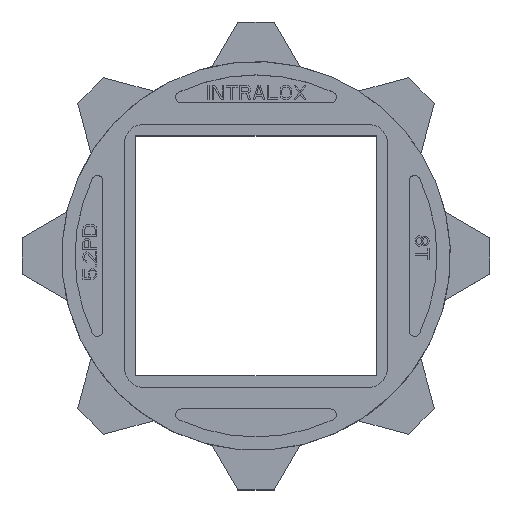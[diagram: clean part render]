
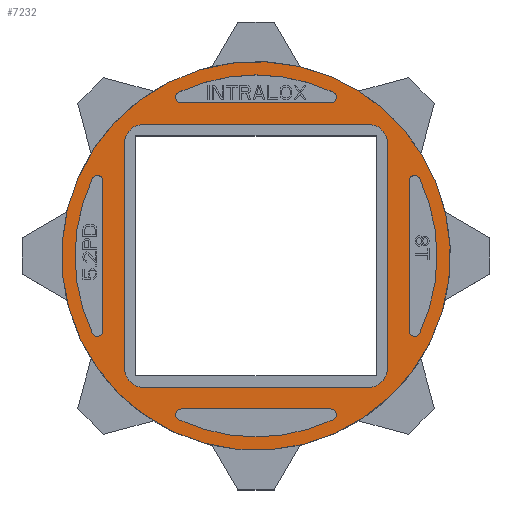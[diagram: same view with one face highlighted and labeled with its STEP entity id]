
A CAD part, top view. The second image highlights one B-rep face of the part: STEP entity #7232.
In plain terms, the highlighted planar face has unit normal (0, 0, 1).
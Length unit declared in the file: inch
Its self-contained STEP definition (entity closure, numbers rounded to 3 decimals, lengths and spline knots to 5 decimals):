
#78=CARTESIAN_POINT('',(0.,0.,0.5));
#79=DIRECTION('',(0.,0.,1.));
#80=DIRECTION('',(0.383,0.924,0.));
#81=AXIS2_PLACEMENT_3D('',#78,#79,#80);
#442=CARTESIAN_POINT('',(0.,0.,0.5));
#443=DIRECTION('',(0.,0.,1.));
#444=DIRECTION('',(0.924,0.383,0.));
#445=AXIS2_PLACEMENT_3D('',#442,#443,#444);
#447=DIRECTION('',(0.,-1.,0.));
#448=VECTOR('',#447,2.4);
#449=CARTESIAN_POINT('',(-1.4,1.2,0.5));
#450=LINE('',#449,#448);
#451=CARTESIAN_POINT('',(-1.2,-1.2,0.5));
#452=DIRECTION('',(0.,0.,1.));
#453=DIRECTION('',(-1.,0.,0.));
#454=AXIS2_PLACEMENT_3D('',#451,#452,#453);
#456=DIRECTION('',(1.,0.,0.));
#457=VECTOR('',#456,2.4);
#458=CARTESIAN_POINT('',(-1.2,-1.4,0.5));
#459=LINE('',#458,#457);
#460=CARTESIAN_POINT('',(1.2,-1.2,0.5));
#461=DIRECTION('',(0.,0.,1.));
#462=DIRECTION('',(0.,-1.,0.));
#463=AXIS2_PLACEMENT_3D('',#460,#461,#462);
#465=DIRECTION('',(0.,1.,0.));
#466=VECTOR('',#465,2.4);
#467=CARTESIAN_POINT('',(1.4,-1.2,0.5));
#468=LINE('',#467,#466);
#469=CARTESIAN_POINT('',(1.2,1.2,0.5));
#470=DIRECTION('',(0.,0.,1.));
#471=DIRECTION('',(1.,0.,0.));
#472=AXIS2_PLACEMENT_3D('',#469,#470,#471);
#474=DIRECTION('',(-1.,0.,0.));
#475=VECTOR('',#474,2.4);
#476=CARTESIAN_POINT('',(1.2,1.4,0.5));
#477=LINE('',#476,#475);
#478=CARTESIAN_POINT('',(-1.2,1.2,0.5));
#479=DIRECTION('',(0.,0.,1.));
#480=DIRECTION('',(0.,1.,0.));
#481=AXIS2_PLACEMENT_3D('',#478,#479,#480);
#483=DIRECTION('',(1.,0.,0.));
#484=VECTOR('',#483,1.5928);
#485=CARTESIAN_POINT('',(-0.7964,1.63,0.5));
#486=LINE('',#485,#484);
#487=CARTESIAN_POINT('',(0.,0.,0.5));
#488=DIRECTION('',(0.,0.,1.));
#489=DIRECTION('',(0.426,0.905,0.));
#490=AXIS2_PLACEMENT_3D('',#487,#488,#489);
#492=CARTESIAN_POINT('',(0.,0.,0.5));
#493=DIRECTION('',(0.,0.,1.));
#494=DIRECTION('',(0.905,-0.426,0.));
#495=AXIS2_PLACEMENT_3D('',#492,#493,#494);
#497=DIRECTION('',(0.,-1.,0.));
#498=VECTOR('',#497,1.5928);
#499=CARTESIAN_POINT('',(1.63,0.7964,0.5));
#500=LINE('',#499,#498);
#501=CARTESIAN_POINT('',(0.,0.,0.5));
#502=DIRECTION('',(0.,0.,1.));
#503=DIRECTION('',(-0.426,-0.905,0.));
#504=AXIS2_PLACEMENT_3D('',#501,#502,#503);
#506=DIRECTION('',(-1.,0.,0.));
#507=VECTOR('',#506,1.5928);
#508=CARTESIAN_POINT('',(0.7964,-1.63,0.5));
#509=LINE('',#508,#507);
#510=CARTESIAN_POINT('',(0.,0.,0.5));
#511=DIRECTION('',(0.,0.,1.));
#512=DIRECTION('',(-0.905,0.426,0.));
#513=AXIS2_PLACEMENT_3D('',#510,#511,#512);
#515=DIRECTION('',(0.,1.,0.));
#516=VECTOR('',#515,1.5928);
#517=CARTESIAN_POINT('',(-1.63,-0.7964,0.5));
#518=LINE('',#517,#516);
#796=CARTESIAN_POINT('',(0.7964,1.69,0.5));
#797=DIRECTION('',(0.,0.,-1.));
#798=DIRECTION('',(0.426,0.905,0.));
#799=AXIS2_PLACEMENT_3D('',#796,#797,#798);
#842=CARTESIAN_POINT('',(-0.7964,1.69,0.5));
#843=DIRECTION('',(0.,0.,-1.));
#844=DIRECTION('',(0.,-1.,0.));
#845=AXIS2_PLACEMENT_3D('',#842,#843,#844);
#2156=CARTESIAN_POINT('',(-0.7964,-1.69,0.5));
#2157=DIRECTION('',(0.,0.,-1.));
#2158=DIRECTION('',(-0.426,-0.905,0.));
#2159=AXIS2_PLACEMENT_3D('',#2156,#2157,#2158);
#2200=CARTESIAN_POINT('',(0.7964,-1.69,0.5));
#2201=DIRECTION('',(0.,0.,-1.));
#2202=DIRECTION('',(0.,1.,0.));
#2203=AXIS2_PLACEMENT_3D('',#2200,#2201,#2202);
#2246=CARTESIAN_POINT('',(-1.69,0.7964,0.5));
#2247=DIRECTION('',(0.,0.,-1.));
#2248=DIRECTION('',(-0.905,0.426,0.));
#2249=AXIS2_PLACEMENT_3D('',#2246,#2247,#2248);
#2290=CARTESIAN_POINT('',(-1.69,-0.7964,0.5));
#2291=DIRECTION('',(0.,0.,-1.));
#2292=DIRECTION('',(1.,0.,0.));
#2293=AXIS2_PLACEMENT_3D('',#2290,#2291,#2292);
#2334=CARTESIAN_POINT('',(1.69,0.7964,0.5));
#2335=DIRECTION('',(0.,0.,-1.));
#2336=DIRECTION('',(-1.,0.,0.));
#2337=AXIS2_PLACEMENT_3D('',#2334,#2335,#2336);
#2380=CARTESIAN_POINT('',(1.69,-0.7964,0.5));
#2381=DIRECTION('',(0.,0.,-1.));
#2382=DIRECTION('',(0.905,-0.426,0.));
#2383=AXIS2_PLACEMENT_3D('',#2380,#2381,#2382);
#4922=CARTESIAN_POINT('',(0.79225,1.91266,0.5));
#4924=VERTEX_POINT('',#4922);
#4926=CARTESIAN_POINT('',(1.91266,0.79225,0.5));
#4928=VERTEX_POINT('',#4926);
#5105=CARTESIAN_POINT('',(-1.4,1.2,0.5));
#5106=CARTESIAN_POINT('',(-1.4,-1.2,0.5));
#5107=VERTEX_POINT('',#5105);
#5108=VERTEX_POINT('',#5106);
#5109=CARTESIAN_POINT('',(-1.2,-1.4,0.5));
#5110=CARTESIAN_POINT('',(1.2,-1.4,0.5));
#5111=VERTEX_POINT('',#5109);
#5112=VERTEX_POINT('',#5110);
#5113=CARTESIAN_POINT('',(1.4,-1.2,0.5));
#5114=CARTESIAN_POINT('',(1.4,1.2,0.5));
#5115=VERTEX_POINT('',#5113);
#5116=VERTEX_POINT('',#5114);
#5117=CARTESIAN_POINT('',(1.2,1.4,0.5));
#5118=CARTESIAN_POINT('',(-1.2,1.4,0.5));
#5119=VERTEX_POINT('',#5117);
#5120=VERTEX_POINT('',#5118);
#5929=CARTESIAN_POINT('',(-0.7964,1.63,0.5));
#5930=CARTESIAN_POINT('',(0.7964,1.63,0.5));
#5931=VERTEX_POINT('',#5929);
#5932=VERTEX_POINT('',#5930);
#5933=CARTESIAN_POINT('',(0.82198,1.74428,0.5));
#5934=CARTESIAN_POINT('',(-0.82198,1.74428,0.5));
#5935=VERTEX_POINT('',#5933);
#5936=VERTEX_POINT('',#5934);
#5961=CARTESIAN_POINT('',(-0.82198,-1.74428,0.5));
#5962=CARTESIAN_POINT('',(0.82198,-1.74428,0.5));
#5963=VERTEX_POINT('',#5961);
#5964=VERTEX_POINT('',#5962);
#5965=CARTESIAN_POINT('',(0.7964,-1.63,0.5));
#5966=CARTESIAN_POINT('',(-0.7964,-1.63,0.5));
#5967=VERTEX_POINT('',#5965);
#5968=VERTEX_POINT('',#5966);
#5969=CARTESIAN_POINT('',(-1.74428,0.82198,0.5));
#5970=CARTESIAN_POINT('',(-1.74428,-0.82198,0.5));
#5971=VERTEX_POINT('',#5969);
#5972=VERTEX_POINT('',#5970);
#5973=CARTESIAN_POINT('',(-1.63,-0.7964,0.5));
#5974=CARTESIAN_POINT('',(-1.63,0.7964,0.5));
#5975=VERTEX_POINT('',#5973);
#5976=VERTEX_POINT('',#5974);
#5977=CARTESIAN_POINT('',(1.63,0.7964,0.5));
#5978=CARTESIAN_POINT('',(1.63,-0.7964,0.5));
#5979=VERTEX_POINT('',#5977);
#5980=VERTEX_POINT('',#5978);
#5981=CARTESIAN_POINT('',(1.74428,-0.82198,0.5));
#5982=CARTESIAN_POINT('',(1.74428,0.82198,0.5));
#5983=VERTEX_POINT('',#5981);
#5984=VERTEX_POINT('',#5982);
#7164=CARTESIAN_POINT('',(0.,0.,0.5));
#7165=DIRECTION('',(0.,0.,1.));
#7166=DIRECTION('',(1.,0.,0.));
#7167=AXIS2_PLACEMENT_3D('',#7164,#7165,#7166);
#7168=PLANE('',#7167);
#7169=ORIENTED_EDGE('',*,*,#6608,.F.);
#7171=ORIENTED_EDGE('',*,*,#7170,.F.);
#7172=EDGE_LOOP('',(#7169,#7171));
#7173=FACE_OUTER_BOUND('',#7172,.F.);
#7175=ORIENTED_EDGE('',*,*,#7174,.T.);
#7177=ORIENTED_EDGE('',*,*,#7176,.T.);
#7179=ORIENTED_EDGE('',*,*,#7178,.T.);
#7181=ORIENTED_EDGE('',*,*,#7180,.T.);
#7183=ORIENTED_EDGE('',*,*,#7182,.T.);
#7185=ORIENTED_EDGE('',*,*,#7184,.T.);
#7187=ORIENTED_EDGE('',*,*,#7186,.T.);
#7189=ORIENTED_EDGE('',*,*,#7188,.T.);
#7190=EDGE_LOOP('',(#7175,#7177,#7179,#7181,#7183,#7185,#7187,#7189));
#7191=FACE_BOUND('',#7190,.F.);
#7193=ORIENTED_EDGE('',*,*,#7192,.T.);
#7195=ORIENTED_EDGE('',*,*,#7194,.F.);
#7197=ORIENTED_EDGE('',*,*,#7196,.T.);
#7199=ORIENTED_EDGE('',*,*,#7198,.F.);
#7200=EDGE_LOOP('',(#7193,#7195,#7197,#7199));
#7201=FACE_BOUND('',#7200,.F.);
#7203=ORIENTED_EDGE('',*,*,#7202,.T.);
#7205=ORIENTED_EDGE('',*,*,#7204,.F.);
#7207=ORIENTED_EDGE('',*,*,#7206,.T.);
#7209=ORIENTED_EDGE('',*,*,#7208,.F.);
#7210=EDGE_LOOP('',(#7203,#7205,#7207,#7209));
#7211=FACE_BOUND('',#7210,.F.);
#7213=ORIENTED_EDGE('',*,*,#7212,.T.);
#7215=ORIENTED_EDGE('',*,*,#7214,.F.);
#7217=ORIENTED_EDGE('',*,*,#7216,.T.);
#7219=ORIENTED_EDGE('',*,*,#7218,.F.);
#7220=EDGE_LOOP('',(#7213,#7215,#7217,#7219));
#7221=FACE_BOUND('',#7220,.F.);
#7223=ORIENTED_EDGE('',*,*,#7222,.T.);
#7225=ORIENTED_EDGE('',*,*,#7224,.F.);
#7227=ORIENTED_EDGE('',*,*,#7226,.T.);
#7229=ORIENTED_EDGE('',*,*,#7228,.F.);
#7230=EDGE_LOOP('',(#7223,#7225,#7227,#7229));
#7231=FACE_BOUND('',#7230,.F.);
#7232=ADVANCED_FACE('',(#7173,#7191,#7201,#7211,#7221,#7231),#7168,.T.);
#82=CIRCLE('',#81,2.07025);
#446=CIRCLE('',#445,2.07025);
#455=CIRCLE('',#454,0.2);
#464=CIRCLE('',#463,0.2);
#473=CIRCLE('',#472,0.2);
#482=CIRCLE('',#481,0.2);
#491=CIRCLE('',#490,1.92825);
#496=CIRCLE('',#495,1.92825);
#505=CIRCLE('',#504,1.92825);
#514=CIRCLE('',#513,1.92825);
#800=CIRCLE('',#799,0.06);
#846=CIRCLE('',#845,0.06);
#2160=CIRCLE('',#2159,0.06);
#2204=CIRCLE('',#2203,0.06);
#2250=CIRCLE('',#2249,0.06);
#2294=CIRCLE('',#2293,0.06);
#2338=CIRCLE('',#2337,0.06);
#2384=CIRCLE('',#2383,0.06);
#6608=EDGE_CURVE('',#4924,#4928,#82,.T.);
#7170=EDGE_CURVE('',#4928,#4924,#446,.T.);
#7174=EDGE_CURVE('',#5107,#5108,#450,.T.);
#7176=EDGE_CURVE('',#5108,#5111,#455,.T.);
#7178=EDGE_CURVE('',#5111,#5112,#459,.T.);
#7180=EDGE_CURVE('',#5112,#5115,#464,.T.);
#7182=EDGE_CURVE('',#5115,#5116,#468,.T.);
#7184=EDGE_CURVE('',#5116,#5119,#473,.T.);
#7186=EDGE_CURVE('',#5119,#5120,#477,.T.);
#7188=EDGE_CURVE('',#5120,#5107,#482,.T.);
#7192=EDGE_CURVE('',#5931,#5932,#486,.T.);
#7194=EDGE_CURVE('',#5935,#5932,#800,.T.);
#7196=EDGE_CURVE('',#5935,#5936,#491,.T.);
#7198=EDGE_CURVE('',#5931,#5936,#846,.T.);
#7202=EDGE_CURVE('',#5983,#5984,#496,.T.);
#7204=EDGE_CURVE('',#5979,#5984,#2338,.T.);
#7206=EDGE_CURVE('',#5979,#5980,#500,.T.);
#7208=EDGE_CURVE('',#5983,#5980,#2384,.T.);
#7212=EDGE_CURVE('',#5963,#5964,#505,.T.);
#7214=EDGE_CURVE('',#5967,#5964,#2204,.T.);
#7216=EDGE_CURVE('',#5967,#5968,#509,.T.);
#7218=EDGE_CURVE('',#5963,#5968,#2160,.T.);
#7222=EDGE_CURVE('',#5971,#5972,#514,.T.);
#7224=EDGE_CURVE('',#5975,#5972,#2294,.T.);
#7226=EDGE_CURVE('',#5975,#5976,#518,.T.);
#7228=EDGE_CURVE('',#5971,#5976,#2250,.T.);
